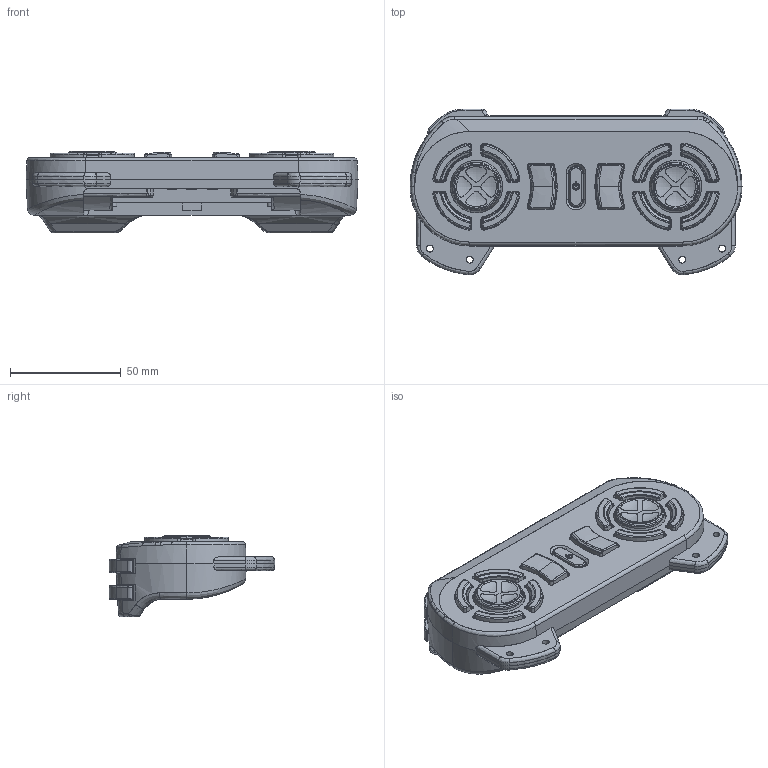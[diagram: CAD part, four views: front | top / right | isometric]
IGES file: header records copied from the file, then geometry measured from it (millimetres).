
Start section: SolidWorks IGES file using analytic representation for surfaces
Global section: file name: C:\Users\holy\Desktop\KRC5FH\KRC-5FH-sample\KRC5FH-3D-sample\IGES\KRC5-body.igs; native system: Rhinoceros ( Feb 26 2015 ); preprocessor: Trout Lake IGES 012 Feb 26 2015; date: 150604.025030; units: millimetre
Bounding box: 150 x 74.84 x 36.95 mm (x, y, z)
Surface area: 36386 mm2 (no closed solid volume)
Topology: 0 solids, 0 shells, 1422 faces, 12430 edges, 12419 vertices
Faces by surface type: bspline 1422
